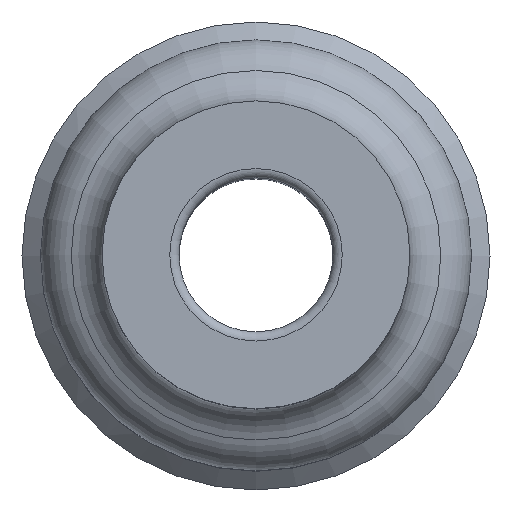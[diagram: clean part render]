
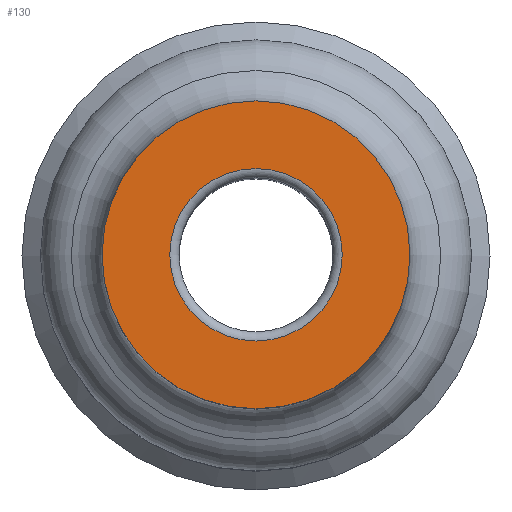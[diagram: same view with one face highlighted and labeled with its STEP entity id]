
A CAD part, top view. The second image highlights one B-rep face of the part: STEP entity #130.
In plain terms, the highlighted planar face has unit normal (0, 0, 1).
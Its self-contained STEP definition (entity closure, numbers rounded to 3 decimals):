
#130=ADVANCED_FACE('',(#323,#324),#325,.T.);
#323=FACE_BOUND('',#564,.T.);
#324=FACE_OUTER_BOUND('',#565,.T.);
#325=PLANE('',#566);
#564=EDGE_LOOP('',(#1115));
#565=EDGE_LOOP('',(#1116));
#566=AXIS2_PLACEMENT_3D('',#1117,#1118,#1119);
#1115=ORIENTED_EDGE('',*,*,#1558,.T.);
#1116=ORIENTED_EDGE('',*,*,#1559,.F.);
#1117=CARTESIAN_POINT('',(5.001,9.494,9.389));
#1118=DIRECTION('',(0.0,0.,1.0));
#1119=DIRECTION('',(0.0,-1.0,0.));
#1558=EDGE_CURVE('',#1914,#1914,#1915,.T.);
#1559=EDGE_CURVE('',#1916,#1916,#1917,.T.);
#1914=VERTEX_POINT('',#2739);
#1915=CIRCLE('',#2740,2.8);
#1916=VERTEX_POINT('',#2741);
#1917=CIRCLE('',#2742,5.);
#2739=CARTESIAN_POINT('',(0.001,6.694,9.389));
#2740=AXIS2_PLACEMENT_3D('',#3184,#3185,#3186);
#2741=CARTESIAN_POINT('',(0.001,14.494,9.389));
#2742=AXIS2_PLACEMENT_3D('',#3187,#3188,#3189);
#3184=CARTESIAN_POINT('',(0.001,9.494,9.389));
#3185=DIRECTION('',(0.0,0.,-1.0));
#3186=DIRECTION('',(0.0,-1.0,0.));
#3187=CARTESIAN_POINT('',(0.001,9.494,9.389));
#3188=DIRECTION('',(0.0,0.,-1.0));
#3189=DIRECTION('',(0.0,1.0,0.));
